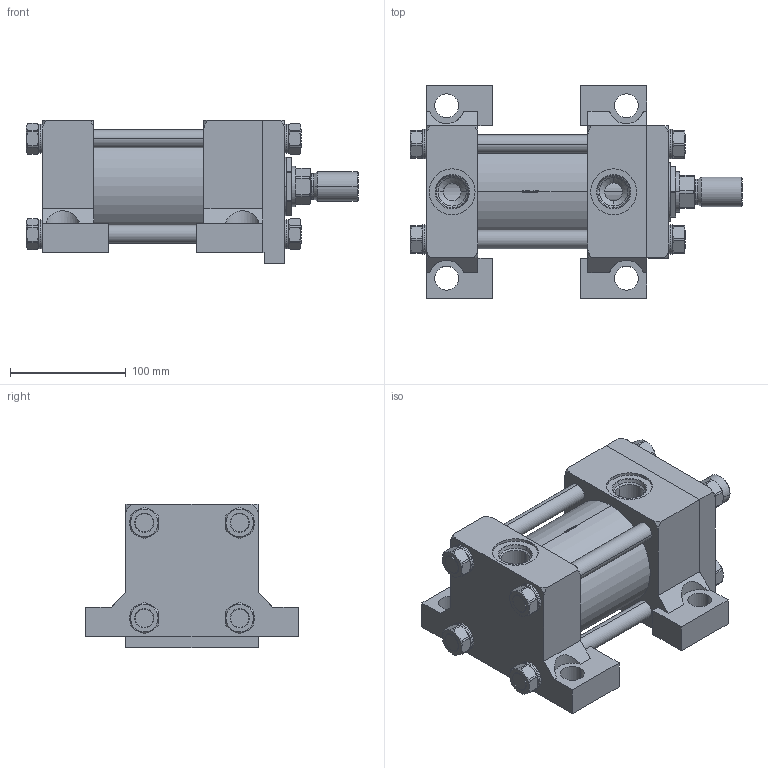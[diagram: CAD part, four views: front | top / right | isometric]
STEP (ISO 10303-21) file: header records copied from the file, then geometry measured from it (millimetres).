
FILE_DESCRIPTION (( 'STEP AP214' ), '1' );
FILE_NAME ('3.25CP2HHNAT114A2.000.step', '2026-03-26T21:16:18', ( '' ), ( '' ), 'SwSTEP 2.0', 'SolidWorks 2023', '' );
FILE_SCHEMA (( 'AUTOMOTIVE_DESIGN' ));
Length unit declared in the file: inch
Products named in the file (1): 3.25CP2HHNAT114A2.000
Bounding box: 287.34 x 184.15 x 123.83 mm (x, y, z)
Volume: 2228472.9 mm3; surface area: 397660.2 mm2
Topology: 47 solids, 47 shells, 1261 faces, 3253 edges, 2094 vertices
Faces by surface type: plane 813, cylinder 227, cone 161, bspline 52, torus 8
Entity records: 57195 total; most frequent: CARTESIAN_POINT 11565, ORIENTED_EDGE 6506, DIRECTION 5277, EDGE_CURVE 3253, VERTEX_POINT 2094, AXIS2_PLACEMENT_3D 1782, VECTOR 1713, LINE 1713
